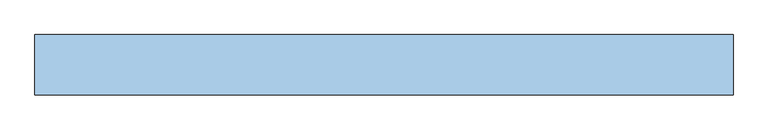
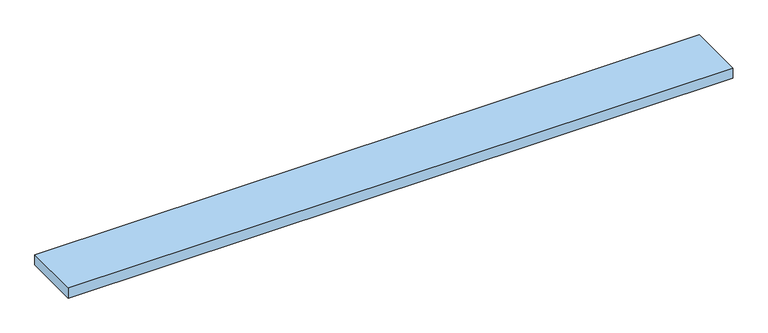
"""IFC4 building model written with IfcOpenShell, lengths in millimetres: window geometry, AC_Подоконник : ПВХ."""

from ifc_helpers import new_model, si_unit, origin, origin_with_axes, place, context, project, spatial, polyline, outline, extrude, source, transform, mapped, element, save


def window_cc363b5f(model_context):
    return source(origin(), model_context, "Body", "SweptSolid", [
        extrude(outline(polyline([(605.0, 0.0), (605.0, -105.0), (-605.0, -105.0), (-605.0, 0.0), (605.0, 0.0)])), origin_with_axes(), (0.0, 0.0, 1.0), 20.0),
    ])


if __name__ == "__main__":
    model = new_model("IFC4")
    model_context = context("Model", 3, world=origin())
    ifc_project = project(units=[si_unit("LENGTHUNIT", "METRE", prefix="MILLI")], contexts=[model_context])
    site = spatial("IfcSite", under=ifc_project)
    building = spatial("IfcBuilding", under=site)
    placement = place(None, origin())
    window_shape = window_cc363b5f(model_context)
    element("IfcWindow", 1, ObjectType="AC_Подоконник : ПВХ", at=placement, inside=building, context=model_context, shape_type="MappedRepresentation", body=[
        mapped(window_shape, transform((0.0, 0.0, 0.0), x_axis=(1.0, 0.0, 0.0), y_axis=(0.0, 1.0, 0.0), z_axis=(0.0, 0.0, 1.0))),
    ])
    save(model, "model.ifc")
